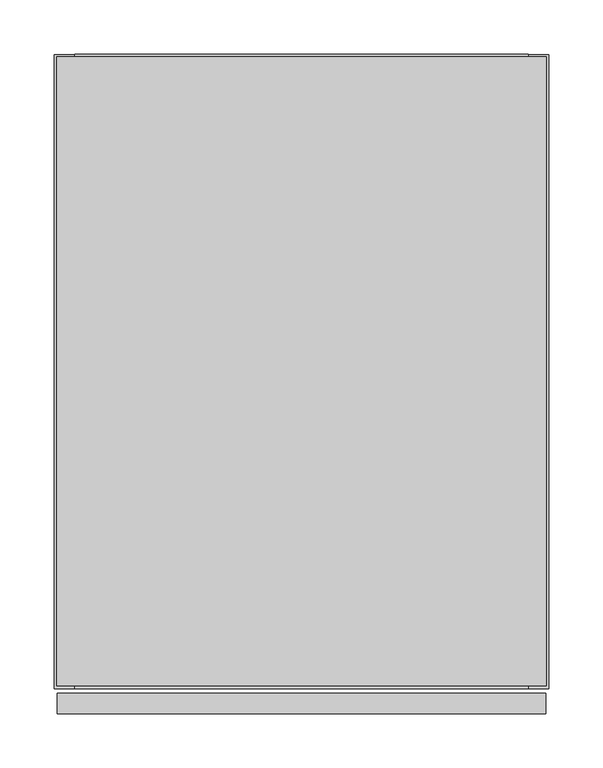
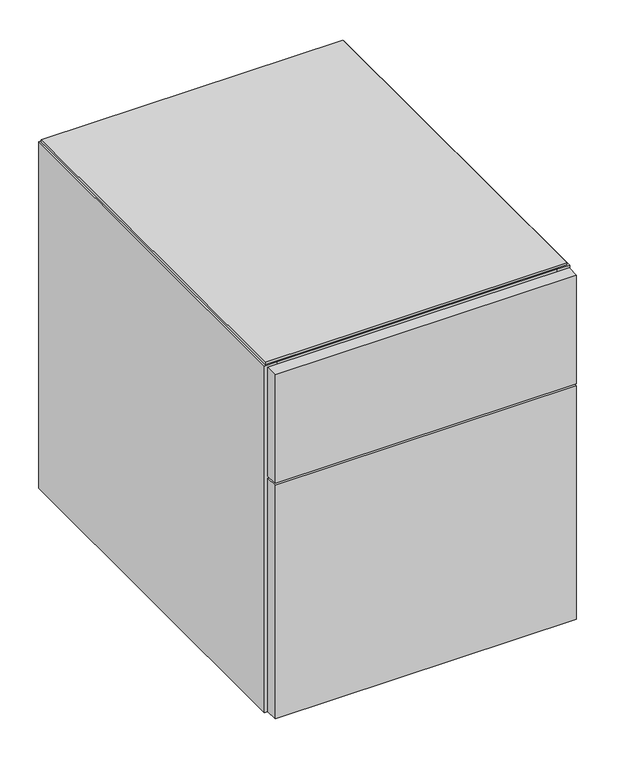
"""IFC4 building model written with IfcOpenShell, lengths in millimetres: furniture geometry, Geiger_GeigerOneCasegoods_LowStorage1Box1File : TFL 18Wx24Dx21.75H."""

from ifc_helpers import new_model, si_unit, point, frame, origin, place, context, project, spatial, polyline, circle_curve, ellipse_curve, trimmed, outline, extrude, source, transform, mapped, element, save
from ifc_brep_helpers import plane_surface, cylinder_surface, revolved_surface, advanced_brep


def furniture_c23576bc(model_context):
    return source(origin(), model_context, "Body", "SolidModel", [
        extrude(outline(polyline([(19.0, -19.5), (438.2, -19.5), (438.2, -586.4), (19.0, -586.4), (19.0, -19.5)])), frame((0.0, 0.0, 73.2), z_axis=(0.0, 0.0, 1.0), x_axis=(1.0, 0.0, 0.0)), (0.0, 0.0, 1.0), 19.5072),
        extrude(outline(polyline([(3.0, -590.4), (454.2, -590.4), (454.2, -609.6), (3.0, -609.6), (3.0, -590.4)])), frame((0.0, 0.0, 15.7), z_axis=(0.0, 0.0, 1.0), x_axis=(1.0, 0.0, 0.0)), (0.0, 0.0, 1.0), 370.0),
        extrude(outline(polyline([(3.0, -590.4), (454.2, -590.4), (454.2, -609.6), (3.0, -609.6), (3.0, -590.4)])), frame((0.0, 0.0, 388.7), z_axis=(0.0, 0.0, 1.0), x_axis=(1.0, 0.0, 0.0)), (0.0, 0.0, 1.0), 172.2),
        extrude(outline(polyline([(19.0, -19.5), (438.2, -19.5), (438.2, -566.9), (19.0, -566.9), (19.0, -19.5)])), frame((0.0, 0.0, 12.7), z_axis=(0.0, 0.0, 1.0), x_axis=(1.0, 0.0, 0.0)), (0.0, 0.0, 1.0), 19.5),
        extrude(outline(polyline([(454.66, -2.54), (454.66, -583.86), (2.54, -583.86), (2.54, -2.54), (454.66, -2.54)])), frame((0.0, 0.0, 561.7), z_axis=(0.0, 0.0, 1.0), x_axis=(1.0, 0.0, 0.0)), (0.0, 0.0, 1.0), 3.2766),
        extrude(outline(polyline([(19.0, -95.7), (438.2, -95.7), (438.2, -586.4), (19.0, -586.4), (19.0, -95.7)])), frame((0.0, 0.0, 542.2), z_axis=(0.0, 0.0, 1.0), x_axis=(1.0, 0.0, 0.0)), (0.0, 0.0, 1.0), 19.5),
        extrude(outline(polyline([(438.2, -19.5), (19.0, -19.5), (19.0, 0.0), (438.2, 0.0), (438.2, -19.5)])), frame((0.0, 0.0, 12.7), z_axis=(0.0, 0.0, 1.0), x_axis=(1.0, 0.0, 0.0)), (0.0, 0.0, 1.0), 549.0),
        extrude(outline(polyline([(19.0, -566.9), (438.2, -566.9), (438.2, -586.4), (19.0, -586.4), (19.0, -566.9)])), frame((0.0, 0.0, 12.7), z_axis=(0.0, 0.0, 1.0), x_axis=(1.0, 0.0, 0.0)), (0.0, 0.0, 1.0), 60.5),
        extrude(outline(polyline([(19.0, -586.4), (0.0, -586.4), (0.0, -0.5), (19.0, -0.5), (19.0, -586.4)])), frame((0.0, 0.0, 12.7), z_axis=(0.0, 0.0, 1.0), x_axis=(1.0, 0.0, 0.0)), (0.0, 0.0, 1.0), 549.0),
        extrude(outline(polyline([(457.2, -586.4), (438.2, -586.4), (438.2, -0.5), (457.2, -0.5), (457.2, -586.4)])), frame((0.0, 0.0, 12.7), z_axis=(0.0, 0.0, 1.0), x_axis=(1.0, 0.0, 0.0)), (0.0, 0.0, 1.0), 549.0),
        advanced_brep(
        [(94.0575663, -528.9165105, 0.0), (71.9424337, -528.9165105, 0.0), (83.0, -528.9165105, 0.0), (94.0575663, -528.9165105, 9.5), (71.9424337, -528.9165105, 9.5), (87.066455, -528.9165105, 9.5), (78.933545, -528.9165105, 9.5), (87.066455, -528.9165105, 12.7), (78.933545, -528.9165105, 12.7), (83.0, -528.9165105, 12.7)],
        [
            (0, 1, circle_curve(frame((83.0, -528.9165105, 0.0), z_axis=(0.0, 0.0, -1.0), x_axis=(-1.0, 0.0, 0.0)), 11.0575663)),
            (1, 2),
            (2, 0),
            (1, 0, circle_curve(frame((83.0, -528.9165105, 0.0), z_axis=(0.0, 0.0, -1.0), x_axis=(-1.0, 0.0, 0.0)), 11.0575663)),
            (0, 3, circle_curve(frame((94.0575663, -528.9165105, 4.75), z_axis=(0.0, -1.0, 0.0), x_axis=(1.0, 0.0, 0.0)), 4.75)),
            (3, 4, circle_curve(frame((83.0, -528.9165105, 9.5), z_axis=(0.0, 0.0, -1.0), x_axis=(-1.0, 0.0, 0.0)), 11.0575663)),
            (4, 1, circle_curve(frame((71.9424337, -528.9165105, 4.75), z_axis=(0.0, -1.0, 0.0), x_axis=(-1.0, 0.0, 0.0)), 4.75)),
            (4, 3, circle_curve(frame((83.0, -528.9165105, 9.5), z_axis=(0.0, 0.0, -1.0), x_axis=(-1.0, 0.0, 0.0)), 11.0575663)),
            (3, 5),
            (5, 6, circle_curve(frame((83.0, -528.9165105, 9.5), z_axis=(0.0, 0.0, -1.0), x_axis=(-1.0, 0.0, 0.0)), 4.066455)),
            (6, 4),
            (6, 5, circle_curve(frame((83.0, -528.9165105, 9.5), z_axis=(0.0, 0.0, -1.0), x_axis=(-1.0, 0.0, 0.0)), 4.066455)),
            (5, 7),
            (7, 8, circle_curve(frame((83.0, -528.9165105, 12.7), z_axis=(0.0, 0.0, -1.0), x_axis=(-1.0, 0.0, 0.0)), 4.066455)),
            (8, 6),
            (8, 7, circle_curve(frame((83.0, -528.9165105, 12.7), z_axis=(0.0, 0.0, -1.0), x_axis=(-1.0, 0.0, 0.0)), 4.066455)),
            (7, 9),
            (9, 8),
        ],
        [
            plane_surface(frame((83.0, -528.9165105, 0.0), z_axis=(0.0, 0.0, -1.0), x_axis=(-1.0, 0.0, 0.0))),
            revolved_surface(trimmed(ellipse_curve(frame((71.9424337, -528.9165105, 4.75), z_axis=(0.0, 1.0, 0.0), x_axis=(-1.0, 0.0, 0.0)), 4.75, 4.75), [point((71.9424337, -528.9165105, 0.0))], [point((71.9424337, -528.9165105, 9.5))], True, "CARTESIAN"), (83.0, -528.9165105, 0.0), (0.0, 0.0, 1.0)),
            plane_surface(frame((83.0, -528.9165105, 9.5), z_axis=(0.0, 0.0, 1.0), x_axis=(-1.0, 0.0, 0.0))),
            cylinder_surface(frame((83.0, -528.9165105, 0.0), z_axis=(0.0, 0.0, 1.0), x_axis=(-1.0, 0.0, 0.0)), 4.066455),
            plane_surface(frame((83.0, -528.9165105, 12.7), z_axis=(0.0, 0.0, 1.0), x_axis=(-1.0, 0.0, 0.0))),
        ],
        [
            (0, [[1, 2, 3]]),
            (0, [[-2, 4, -3]]),
            (1, [[-1, 5, 6, 7]]),
            (1, [[-4, -7, 8, -5]]),
            (2, [[-6, 9, 10, 11]]),
            (2, [[-8, -11, 12, -9]]),
            (3, [[-10, 13, 14, 15]]),
            (3, [[-12, -15, 16, -13]]),
            (4, [[-14, 17, 18]]),
            (4, [[-16, -18, -17]]),
        ],
    ),
        advanced_brep(
        [(94.0575663, -127.0, 0.0), (71.9424337, -127.0, 0.0), (83.0, -127.0, 0.0), (94.0575663, -127.0, 9.5), (71.9424337, -127.0, 9.5), (87.066455, -127.0, 9.5), (78.933545, -127.0, 9.5), (87.066455, -127.0, 12.7), (78.933545, -127.0, 12.7), (83.0, -127.0, 12.7)],
        [
            (0, 1, circle_curve(frame((83.0, -127.0, 0.0), z_axis=(0.0, 0.0, -1.0), x_axis=(-1.0, 0.0, 0.0)), 11.0575663)),
            (1, 2),
            (2, 0),
            (1, 0, circle_curve(frame((83.0, -127.0, 0.0), z_axis=(0.0, 0.0, -1.0), x_axis=(-1.0, 0.0, 0.0)), 11.0575663)),
            (0, 3, circle_curve(frame((94.0575663, -127.0, 4.75), z_axis=(0.0, -1.0, 0.0), x_axis=(1.0, 0.0, 0.0)), 4.75)),
            (3, 4, circle_curve(frame((83.0, -127.0, 9.5), z_axis=(0.0, 0.0, -1.0), x_axis=(-1.0, 0.0, 0.0)), 11.0575663)),
            (4, 1, circle_curve(frame((71.9424337, -127.0, 4.75), z_axis=(0.0, -1.0, 0.0), x_axis=(-1.0, 0.0, 0.0)), 4.75)),
            (4, 3, circle_curve(frame((83.0, -127.0, 9.5), z_axis=(0.0, 0.0, -1.0), x_axis=(-1.0, 0.0, 0.0)), 11.0575663)),
            (3, 5),
            (5, 6, circle_curve(frame((83.0, -127.0, 9.5), z_axis=(0.0, 0.0, -1.0), x_axis=(-1.0, 0.0, 0.0)), 4.066455)),
            (6, 4),
            (6, 5, circle_curve(frame((83.0, -127.0, 9.5), z_axis=(0.0, 0.0, -1.0), x_axis=(-1.0, 0.0, 0.0)), 4.066455)),
            (5, 7),
            (7, 8, circle_curve(frame((83.0, -127.0, 12.7), z_axis=(0.0, 0.0, -1.0), x_axis=(-1.0, 0.0, 0.0)), 4.066455)),
            (8, 6),
            (8, 7, circle_curve(frame((83.0, -127.0, 12.7), z_axis=(0.0, 0.0, -1.0), x_axis=(-1.0, 0.0, 0.0)), 4.066455)),
            (7, 9),
            (9, 8),
        ],
        [
            plane_surface(frame((83.0, -127.0, 0.0), z_axis=(0.0, 0.0, -1.0), x_axis=(-1.0, 0.0, 0.0))),
            revolved_surface(trimmed(ellipse_curve(frame((71.9424337, -127.0, 4.75), z_axis=(0.0, 1.0, 0.0), x_axis=(-1.0, 0.0, 0.0)), 4.75, 4.75), [point((71.9424337, -127.0, 0.0))], [point((71.9424337, -127.0, 9.5))], True, "CARTESIAN"), (83.0, -127.0, 0.0), (0.0, 0.0, 1.0)),
            plane_surface(frame((83.0, -127.0, 9.5), z_axis=(0.0, 0.0, 1.0), x_axis=(-1.0, 0.0, 0.0))),
            cylinder_surface(frame((83.0, -127.0, 0.0), z_axis=(0.0, 0.0, 1.0), x_axis=(-1.0, 0.0, 0.0)), 4.066455),
            plane_surface(frame((83.0, -127.0, 12.7), z_axis=(0.0, 0.0, 1.0), x_axis=(-1.0, 0.0, 0.0))),
        ],
        [
            (0, [[1, 2, 3]]),
            (0, [[-2, 4, -3]]),
            (1, [[-1, 5, 6, 7]]),
            (1, [[-4, -7, 8, -5]]),
            (2, [[-6, 9, 10, 11]]),
            (2, [[-8, -11, 12, -9]]),
            (3, [[-10, 13, 14, 15]]),
            (3, [[-12, -15, 16, -13]]),
            (4, [[-14, 17, 18]]),
            (4, [[-16, -18, -17]]),
        ],
    ),
        advanced_brep(
        [(374.2, -528.9165105, 0.0), (385.2575663, -528.9165105, 0.0), (363.1424337, -528.9165105, 0.0), (385.2575663, -528.9165105, 9.5), (363.1424337, -528.9165105, 9.5), (378.266455, -528.9165105, 9.5), (370.133545, -528.9165105, 9.5), (378.266455, -528.9165105, 12.7), (370.133545, -528.9165105, 12.7), (374.2, -528.9165105, 12.7)],
        [
            (0, 1),
            (1, 2, circle_curve(frame((374.2, -528.9165105, 0.0), z_axis=(0.0, 0.0, -1.0), x_axis=(1.0, 0.0, 0.0)), 11.0575663)),
            (2, 0),
            (2, 1, circle_curve(frame((374.2, -528.9165105, 0.0), z_axis=(0.0, 0.0, -1.0), x_axis=(1.0, 0.0, 0.0)), 11.0575663)),
            (1, 3, circle_curve(frame((385.2575663, -528.9165105, 4.75), z_axis=(0.0, -1.0, 0.0), x_axis=(-1.0, 0.0, 0.0)), 4.75)),
            (3, 4, circle_curve(frame((374.2, -528.9165105, 9.5), z_axis=(0.0, 0.0, -1.0), x_axis=(1.0, 0.0, 0.0)), 11.0575663)),
            (4, 2, circle_curve(frame((363.1424337, -528.9165105, 4.75), z_axis=(0.0, -1.0, 0.0), x_axis=(1.0, 0.0, 0.0)), 4.75)),
            (4, 3, circle_curve(frame((374.2, -528.9165105, 9.5), z_axis=(0.0, 0.0, -1.0), x_axis=(1.0, 0.0, 0.0)), 11.0575663)),
            (3, 5),
            (5, 6, circle_curve(frame((374.2, -528.9165105, 9.5), z_axis=(0.0, 0.0, -1.0), x_axis=(1.0, 0.0, 0.0)), 4.066455)),
            (6, 4),
            (6, 5, circle_curve(frame((374.2, -528.9165105, 9.5), z_axis=(0.0, 0.0, -1.0), x_axis=(1.0, 0.0, 0.0)), 4.066455)),
            (5, 7),
            (7, 8, circle_curve(frame((374.2, -528.9165105, 12.7), z_axis=(0.0, 0.0, -1.0), x_axis=(1.0, 0.0, 0.0)), 4.066455)),
            (8, 6),
            (8, 7, circle_curve(frame((374.2, -528.9165105, 12.7), z_axis=(0.0, 0.0, -1.0), x_axis=(1.0, 0.0, 0.0)), 4.066455)),
            (7, 9),
            (9, 8),
        ],
        [
            plane_surface(frame((374.2, -528.9165105, 0.0), z_axis=(0.0, 0.0, -1.0), x_axis=(1.0, 0.0, 0.0))),
            revolved_surface(trimmed(ellipse_curve(frame((385.2575663, -528.9165105, 4.75), z_axis=(0.0, 1.0, 0.0), x_axis=(-1.0, 0.0, 0.0)), 4.75, 4.75), [point((385.2575663, -528.9165105, 9.5))], [point((385.2575663, -528.9165105, 0.0))], True, "CARTESIAN"), (374.2, -528.9165105, 0.0), (0.0, 0.0, -1.0)),
            plane_surface(frame((374.2, -528.9165105, 9.5), z_axis=(0.0, 0.0, 1.0), x_axis=(1.0, 0.0, 0.0))),
            cylinder_surface(frame((374.2, -528.9165105, 0.0), z_axis=(0.0, 0.0, -1.0), x_axis=(1.0, 0.0, 0.0)), 4.066455),
            plane_surface(frame((374.2, -528.9165105, 12.7), z_axis=(0.0, 0.0, 1.0), x_axis=(1.0, 0.0, 0.0))),
        ],
        [
            (0, [[1, 2, 3]]),
            (0, [[-1, -3, 4]]),
            (1, [[-2, 5, 6, 7]]),
            (1, [[-4, -7, 8, -5]]),
            (2, [[-6, 9, 10, 11]]),
            (2, [[-8, -11, 12, -9]]),
            (3, [[-10, 13, 14, 15]]),
            (3, [[-12, -15, 16, -13]]),
            (4, [[-14, 17, 18]]),
            (4, [[-16, -18, -17]]),
        ],
    ),
        advanced_brep(
        [(374.2, -127.0, 0.0), (385.2575663, -127.0, 0.0), (363.1424337, -127.0, 0.0), (385.2575663, -127.0, 9.5), (363.1424337, -127.0, 9.5), (378.266455, -127.0, 9.5), (370.133545, -127.0, 9.5), (378.266455, -127.0, 12.7), (370.133545, -127.0, 12.7), (374.2, -127.0, 12.7)],
        [
            (0, 1),
            (1, 2, circle_curve(frame((374.2, -127.0, 0.0), z_axis=(0.0, 0.0, -1.0), x_axis=(1.0, 0.0, 0.0)), 11.0575663)),
            (2, 0),
            (2, 1, circle_curve(frame((374.2, -127.0, 0.0), z_axis=(0.0, 0.0, -1.0), x_axis=(1.0, 0.0, 0.0)), 11.0575663)),
            (1, 3, circle_curve(frame((385.2575663, -127.0, 4.75), z_axis=(0.0, -1.0, 0.0), x_axis=(-1.0, 0.0, 0.0)), 4.75)),
            (3, 4, circle_curve(frame((374.2, -127.0, 9.5), z_axis=(0.0, 0.0, -1.0), x_axis=(1.0, 0.0, 0.0)), 11.0575663)),
            (4, 2, circle_curve(frame((363.1424337, -127.0, 4.75), z_axis=(0.0, -1.0, 0.0), x_axis=(1.0, 0.0, 0.0)), 4.75)),
            (4, 3, circle_curve(frame((374.2, -127.0, 9.5), z_axis=(0.0, 0.0, -1.0), x_axis=(1.0, 0.0, 0.0)), 11.0575663)),
            (3, 5),
            (5, 6, circle_curve(frame((374.2, -127.0, 9.5), z_axis=(0.0, 0.0, -1.0), x_axis=(1.0, 0.0, 0.0)), 4.066455)),
            (6, 4),
            (6, 5, circle_curve(frame((374.2, -127.0, 9.5), z_axis=(0.0, 0.0, -1.0), x_axis=(1.0, 0.0, 0.0)), 4.066455)),
            (5, 7),
            (7, 8, circle_curve(frame((374.2, -127.0, 12.7), z_axis=(0.0, 0.0, -1.0), x_axis=(1.0, 0.0, 0.0)), 4.066455)),
            (8, 6),
            (8, 7, circle_curve(frame((374.2, -127.0, 12.7), z_axis=(0.0, 0.0, -1.0), x_axis=(1.0, 0.0, 0.0)), 4.066455)),
            (7, 9),
            (9, 8),
        ],
        [
            plane_surface(frame((374.2, -127.0, 0.0), z_axis=(0.0, 0.0, -1.0), x_axis=(1.0, 0.0, 0.0))),
            revolved_surface(trimmed(ellipse_curve(frame((385.2575663, -127.0, 4.75), z_axis=(0.0, 1.0, 0.0), x_axis=(-1.0, 0.0, 0.0)), 4.75, 4.75), [point((385.2575663, -127.0, 9.5))], [point((385.2575663, -127.0, 0.0))], True, "CARTESIAN"), (374.2, -127.0, 0.0), (0.0, 0.0, -1.0)),
            plane_surface(frame((374.2, -127.0, 9.5), z_axis=(0.0, 0.0, 1.0), x_axis=(1.0, 0.0, 0.0))),
            cylinder_surface(frame((374.2, -127.0, 0.0), z_axis=(0.0, 0.0, -1.0), x_axis=(1.0, 0.0, 0.0)), 4.066455),
            plane_surface(frame((374.2, -127.0, 12.7), z_axis=(0.0, 0.0, 1.0), x_axis=(1.0, 0.0, 0.0))),
        ],
        [
            (0, [[1, 2, 3]]),
            (0, [[-1, -3, 4]]),
            (1, [[-2, 5, 6, 7]]),
            (1, [[-4, -7, 8, -5]]),
            (2, [[-6, 9, 10, 11]]),
            (2, [[-8, -11, 12, -9]]),
            (3, [[-10, 13, 14, 15]]),
            (3, [[-12, -15, 16, -13]]),
            (4, [[-14, 17, 18]]),
            (4, [[-16, -18, -17]]),
        ],
    ),
    ])


if __name__ == "__main__":
    model = new_model("IFC4")
    model_context = context("Model", 3, world=origin())
    ifc_project = project(units=[si_unit("LENGTHUNIT", "METRE", prefix="MILLI")], contexts=[model_context])
    site = spatial("IfcSite", under=ifc_project)
    building = spatial("IfcBuilding", under=site)
    placement = place(None, origin())
    furniture_shape = furniture_c23576bc(model_context)
    element("IfcFurniture", 1, ObjectType="Geiger_GeigerOneCasegoods_LowStorage1Box1File : TFL 18Wx24Dx21.75H", at=placement, inside=building, context=model_context, shape_type="MappedRepresentation", body=[
        mapped(furniture_shape, transform((0.0, 0.0, 0.0), x_axis=(1.0, 0.0, 0.0), y_axis=(0.0, 1.0, 0.0), z_axis=(0.0, 0.0, 1.0))),
    ])
    save(model, "model.ifc")
